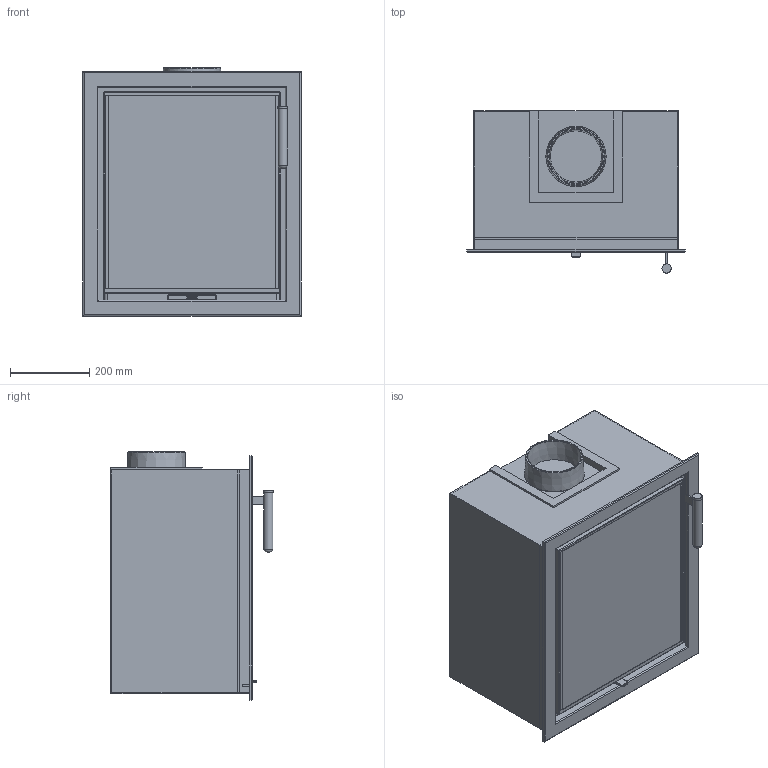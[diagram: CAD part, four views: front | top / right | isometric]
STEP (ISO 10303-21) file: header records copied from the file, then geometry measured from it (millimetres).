
FILE_DESCRIPTION(/* description */ ('Unknown'),/* implementation_level */ '2;1');
FILE_NAME(/* name */ 'Ci2G 4-side frame',/* time_stamp */ '2024-09-30T13:40:35+02:00',/* author */ ('Unknown'),/* organization */ ('Unknown'),/* preprocessor_version */ 'ST-DEVELOPER v18.102',/* originating_system */ 'Solid Edge',/* authorisation */ 'Unknown');
FILE_SCHEMA (('AUTOMOTIVE_DESIGN {1 0 10303 214 3 1 1}'));
Length unit declared in the file: millimetre
Products named in the file (8): DSN1058343; DSN1058327; DSN1058344; DSN1058345; DSN1058330; DSN1058332; DSN1058335; DSN1058333
Assembly tree (7 placements, depth 2):
  DSN1058343
    DSN1058327
    DSN1058344
    DSN1058345
    DSN1058330
    DSN1058332
    DSN1058335
    DSN1058333
Bounding box: 549 x 407.9 x 624.4 mm (x, y, z)
Volume: 23238862.5 mm3; surface area: 6161827.9 mm2
Topology: 8 solids, 8 shells, 829 faces, 2096 edges, 1338 vertices
Faces by surface type: plane 465, cylinder 164, bspline 154, torus 34, sphere 10, cone 2
Full cylindrical faces by diameter (mm): 6.027 x9, 23 x1, 23.4 x1
Entity records: 31287 total; most frequent: CARTESIAN_POINT 10910, ORIENTED_EDGE 4096, DIRECTION 3590, EDGE_CURVE 2048, LINE 1408, VECTOR 1408, VERTEX_POINT 1326, AXIS2_PLACEMENT_3D 1091
